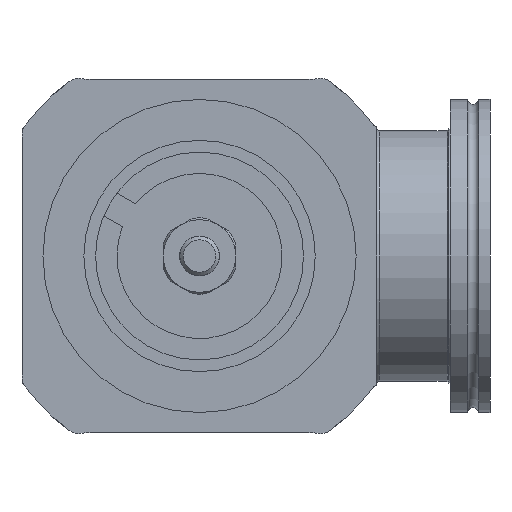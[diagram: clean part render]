
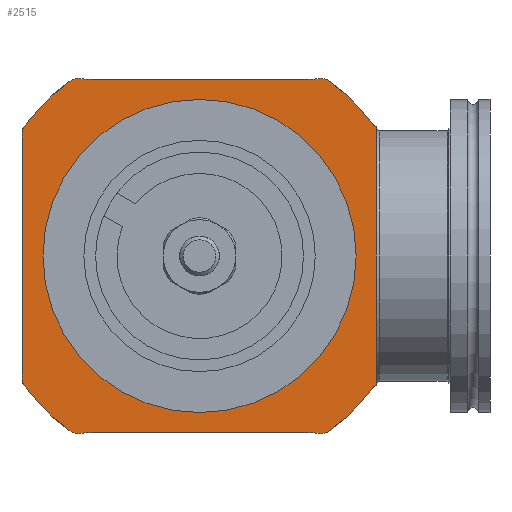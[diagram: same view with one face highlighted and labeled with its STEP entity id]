
A CAD part, left-side view. The second image highlights one B-rep face of the part: STEP entity #2515.
In plain terms, the highlighted planar face has unit normal (-1, 0, 0) as drawn and (0, -1, 0) by its records, which use the part's own axes.
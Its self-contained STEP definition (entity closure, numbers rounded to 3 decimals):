
#1221=FACE_BOUND('',#3794,.T.);
#1222=FACE_BOUND('',#3795,.T.);
#1510=PLANE('',#10330);
#2515=ADVANCED_FACE('',(#1221,#1222),#1510,.T.);
#3794=EDGE_LOOP('',(#6576));
#3795=EDGE_LOOP('',(#6577,#6578,#6579,#6580,#6581,#6582,#6583,#6584,#6585,
#6586,#6587,#6588,#6589,#6590,#6591,#6592,#6593,#6594,#6595,#6596,#6597,
#6598));
#4318=CIRCLE('',#10280,14.);
#4319=CIRCLE('',#10282,14.);
#4320=CIRCLE('',#10284,2.);
#4321=CIRCLE('',#10286,2.);
#4322=CIRCLE('',#10288,14.);
#4323=CIRCLE('',#10290,14.);
#4324=CIRCLE('',#10292,14.);
#4325=CIRCLE('',#10294,14.);
#4326=CIRCLE('',#10296,5.3);
#4327=CIRCLE('',#10299,5.3);
#4328=CIRCLE('',#10301,66.);
#4329=CIRCLE('',#10303,5.3);
#4330=CIRCLE('',#10306,5.3);
#4331=CIRCLE('',#10308,66.);
#4332=CIRCLE('',#10310,66.);
#4333=CIRCLE('',#10312,5.3);
#4334=CIRCLE('',#10315,5.3);
#4335=CIRCLE('',#10317,66.);
#4342=CIRCLE('',#10329,39.);
#6576=ORIENTED_EDGE('',*,*,#8570,.T.);
#6577=ORIENTED_EDGE('',*,*,#8571,.F.);
#6578=ORIENTED_EDGE('',*,*,#8527,.T.);
#6579=ORIENTED_EDGE('',*,*,#8557,.T.);
#6580=ORIENTED_EDGE('',*,*,#8559,.T.);
#6581=ORIENTED_EDGE('',*,*,#8524,.T.);
#6582=ORIENTED_EDGE('',*,*,#8560,.T.);
#6583=ORIENTED_EDGE('',*,*,#8521,.T.);
#6584=ORIENTED_EDGE('',*,*,#8561,.T.);
#6585=ORIENTED_EDGE('',*,*,#8563,.T.);
#6586=ORIENTED_EDGE('',*,*,#8545,.T.);
#6587=ORIENTED_EDGE('',*,*,#8542,.T.);
#6588=ORIENTED_EDGE('',*,*,#8547,.T.);
#6589=ORIENTED_EDGE('',*,*,#8539,.T.);
#6590=ORIENTED_EDGE('',*,*,#8548,.T.);
#6591=ORIENTED_EDGE('',*,*,#8550,.T.);
#6592=ORIENTED_EDGE('',*,*,#8552,.T.);
#6593=ORIENTED_EDGE('',*,*,#8536,.T.);
#6594=ORIENTED_EDGE('',*,*,#8553,.T.);
#6595=ORIENTED_EDGE('',*,*,#8533,.T.);
#6596=ORIENTED_EDGE('',*,*,#8554,.T.);
#6597=ORIENTED_EDGE('',*,*,#8556,.T.);
#6598=ORIENTED_EDGE('',*,*,#8531,.T.);
#7378=VERTEX_POINT('',#16341);
#7379=VERTEX_POINT('',#16342);
#7380=VERTEX_POINT('',#16347);
#7381=VERTEX_POINT('',#16348);
#7382=VERTEX_POINT('',#16353);
#7383=VERTEX_POINT('',#16354);
#7384=VERTEX_POINT('',#16359);
#7385=VERTEX_POINT('',#16361);
#7386=VERTEX_POINT('',#16365);
#7387=VERTEX_POINT('',#16366);
#7388=VERTEX_POINT('',#16371);
#7389=VERTEX_POINT('',#16372);
#7390=VERTEX_POINT('',#16377);
#7391=VERTEX_POINT('',#16378);
#7392=VERTEX_POINT('',#16383);
#7393=VERTEX_POINT('',#16384);
#7394=VERTEX_POINT('',#16389);
#7395=VERTEX_POINT('',#16395);
#7396=VERTEX_POINT('',#16399);
#7397=VERTEX_POINT('',#16407);
#7398=VERTEX_POINT('',#16413);
#7399=VERTEX_POINT('',#16421);
#7406=VERTEX_POINT('',#16443);
#8521=EDGE_CURVE('',#7378,#7379,#4318,.T.);
#8524=EDGE_CURVE('',#7380,#7381,#4319,.T.);
#8527=EDGE_CURVE('',#7382,#7383,#4320,.T.);
#8531=EDGE_CURVE('',#7385,#7384,#4321,.T.);
#8533=EDGE_CURVE('',#7386,#7387,#4322,.T.);
#8536=EDGE_CURVE('',#7388,#7389,#4323,.T.);
#8539=EDGE_CURVE('',#7390,#7391,#4324,.T.);
#8542=EDGE_CURVE('',#7392,#7393,#4325,.T.);
#8545=EDGE_CURVE('',#7394,#7392,#4326,.T.);
#8547=EDGE_CURVE('',#7393,#7390,#8957,.T.);
#8548=EDGE_CURVE('',#7391,#7395,#4327,.T.);
#8550=EDGE_CURVE('',#7395,#7396,#4328,.T.);
#8552=EDGE_CURVE('',#7396,#7388,#4329,.T.);
#8553=EDGE_CURVE('',#7389,#7386,#8960,.T.);
#8554=EDGE_CURVE('',#7387,#7397,#4330,.T.);
#8556=EDGE_CURVE('',#7397,#7385,#4331,.T.);
#8557=EDGE_CURVE('',#7383,#7398,#4332,.T.);
#8559=EDGE_CURVE('',#7398,#7380,#4333,.T.);
#8560=EDGE_CURVE('',#7381,#7378,#8963,.T.);
#8561=EDGE_CURVE('',#7379,#7399,#4334,.T.);
#8563=EDGE_CURVE('',#7399,#7394,#4335,.T.);
#8570=EDGE_CURVE('',#7406,#7406,#4342,.T.);
#8571=EDGE_CURVE('',#7382,#7384,#8965,.T.);
#8957=LINE('',#16392,#9321);
#8960=LINE('',#16404,#9324);
#8963=LINE('',#16418,#9327);
#8965=LINE('',#16444,#9329);
#9321=VECTOR('',#12682,1.);
#9324=VECTOR('',#12699,1.);
#9327=VECTOR('',#12720,1.);
#9329=VECTOR('',#12754,1.);
#10280=AXIS2_PLACEMENT_3D('',#16340,#12629,#12630);
#10282=AXIS2_PLACEMENT_3D('',#16346,#12635,#12636);
#10284=AXIS2_PLACEMENT_3D('',#16352,#12641,#12642);
#10286=AXIS2_PLACEMENT_3D('',#16360,#12648,#12649);
#10288=AXIS2_PLACEMENT_3D('',#16364,#12653,#12654);
#10290=AXIS2_PLACEMENT_3D('',#16370,#12659,#12660);
#10292=AXIS2_PLACEMENT_3D('',#16376,#12665,#12666);
#10294=AXIS2_PLACEMENT_3D('',#16382,#12671,#12672);
#10296=AXIS2_PLACEMENT_3D('',#16388,#12677,#12678);
#10299=AXIS2_PLACEMENT_3D('',#16394,#12685,#12686);
#10301=AXIS2_PLACEMENT_3D('',#16398,#12690,#12691);
#10303=AXIS2_PLACEMENT_3D('',#16402,#12695,#12696);
#10306=AXIS2_PLACEMENT_3D('',#16406,#12702,#12703);
#10308=AXIS2_PLACEMENT_3D('',#16410,#12707,#12708);
#10310=AXIS2_PLACEMENT_3D('',#16412,#12711,#12712);
#10312=AXIS2_PLACEMENT_3D('',#16416,#12716,#12717);
#10315=AXIS2_PLACEMENT_3D('',#16420,#12723,#12724);
#10317=AXIS2_PLACEMENT_3D('',#16424,#12728,#12729);
#10329=AXIS2_PLACEMENT_3D('',#16442,#12752,#12753);
#10330=AXIS2_PLACEMENT_3D('',#16445,#12755,#12756);
#12629=DIRECTION('',(0.,1.,0.));
#12630=DIRECTION('',(0.,0.,-1.));
#12635=DIRECTION('',(0.,1.,0.));
#12636=DIRECTION('',(0.,0.,-1.));
#12641=DIRECTION('',(0.,1.,0.));
#12642=DIRECTION('',(0.,0.,-1.));
#12648=DIRECTION('',(0.,1.,0.));
#12649=DIRECTION('',(0.,0.,-1.));
#12653=DIRECTION('',(0.,1.,0.));
#12654=DIRECTION('',(0.,0.,-1.));
#12659=DIRECTION('',(0.,1.,0.));
#12660=DIRECTION('',(0.,0.,-1.));
#12665=DIRECTION('',(0.,1.,0.));
#12666=DIRECTION('',(0.,0.,-1.));
#12671=DIRECTION('',(0.,1.,0.));
#12672=DIRECTION('',(0.,0.,-1.));
#12677=DIRECTION('',(0.,-1.,0.));
#12678=DIRECTION('',(0.,0.,-1.));
#12682=DIRECTION('',(-1.,0.,0.));
#12685=DIRECTION('',(0.,-1.,0.));
#12686=DIRECTION('',(0.,0.,-1.));
#12690=DIRECTION('',(0.,-1.,0.));
#12691=DIRECTION('',(0.,0.,-1.));
#12695=DIRECTION('',(0.,-1.,0.));
#12696=DIRECTION('',(0.,0.,-1.));
#12699=DIRECTION('',(0.,0.,-1.));
#12702=DIRECTION('',(0.,-1.,0.));
#12703=DIRECTION('',(0.,0.,-1.));
#12707=DIRECTION('',(0.,-1.,0.));
#12708=DIRECTION('',(0.,0.,-1.));
#12711=DIRECTION('',(0.,-1.,0.));
#12712=DIRECTION('',(0.,0.,-1.));
#12716=DIRECTION('',(0.,-1.,0.));
#12717=DIRECTION('',(0.,0.,-1.));
#12720=DIRECTION('',(0.,0.,1.));
#12723=DIRECTION('',(0.,-1.,0.));
#12724=DIRECTION('',(0.,0.,-1.));
#12728=DIRECTION('',(0.,-1.,0.));
#12729=DIRECTION('',(0.,0.,-1.));
#12752=DIRECTION('',(0.,1.,0.));
#12753=DIRECTION('',(0.,0.,-1.));
#12754=DIRECTION('',(-1.,0.,0.));
#12755=DIRECTION('',(0.,-1.,0.));
#12756=DIRECTION('',(0.,0.,-1.));
#16340=CARTESIAN_POINT('',(67.5,40.,33.11));
#16341=CARTESIAN_POINT('',(53.5,40.,33.11));
#16342=CARTESIAN_POINT('',(53.718,40.,35.569));
#16346=CARTESIAN_POINT('',(67.5,40.,-33.11));
#16347=CARTESIAN_POINT('',(53.718,40.,-35.569));
#16348=CARTESIAN_POINT('',(53.5,40.,-33.11));
#16352=CARTESIAN_POINT('',(41.,40.,-54.249));
#16353=CARTESIAN_POINT('',(39.146,40.,-53.5));
#16354=CARTESIAN_POINT('',(39.794,40.,-52.654));
#16359=CARTESIAN_POINT('',(-39.146,40.,-53.5));
#16360=CARTESIAN_POINT('',(-41.,40.,-54.249));
#16361=CARTESIAN_POINT('',(-39.794,40.,-52.654));
#16364=CARTESIAN_POINT('',(-67.5,40.,-33.11));
#16365=CARTESIAN_POINT('',(-53.5,40.,-33.11));
#16366=CARTESIAN_POINT('',(-53.718,40.,-35.569));
#16370=CARTESIAN_POINT('',(-67.5,40.,33.11));
#16371=CARTESIAN_POINT('',(-53.718,40.,35.569));
#16372=CARTESIAN_POINT('',(-53.5,40.,33.11));
#16376=CARTESIAN_POINT('',(-33.11,40.,67.5));
#16377=CARTESIAN_POINT('',(-33.11,40.,53.5));
#16378=CARTESIAN_POINT('',(-35.569,40.,53.718));
#16382=CARTESIAN_POINT('',(33.11,40.,67.5));
#16383=CARTESIAN_POINT('',(35.569,40.,53.718));
#16384=CARTESIAN_POINT('',(33.11,40.,53.5));
#16388=CARTESIAN_POINT('',(36.5,40.,48.5));
#16389=CARTESIAN_POINT('',(39.687,40.,52.735));
#16392=CARTESIAN_POINT('',(0.,40.,53.5));
#16394=CARTESIAN_POINT('',(-36.5,40.,48.5));
#16395=CARTESIAN_POINT('',(-39.687,40.,52.735));
#16398=CARTESIAN_POINT('',(0.,40.,0.));
#16399=CARTESIAN_POINT('',(-52.735,40.,39.687));
#16402=CARTESIAN_POINT('',(-48.5,40.,36.5));
#16404=CARTESIAN_POINT('',(-53.5,40.,-34.742));
#16406=CARTESIAN_POINT('',(-48.5,40.,-36.5));
#16407=CARTESIAN_POINT('',(-52.735,40.,-39.687));
#16410=CARTESIAN_POINT('',(0.,40.,0.));
#16412=CARTESIAN_POINT('',(0.,40.,0.));
#16413=CARTESIAN_POINT('',(52.735,40.,-39.687));
#16416=CARTESIAN_POINT('',(48.5,40.,-36.5));
#16418=CARTESIAN_POINT('',(53.5,40.,34.742));
#16420=CARTESIAN_POINT('',(48.5,40.,36.5));
#16421=CARTESIAN_POINT('',(52.735,40.,39.687));
#16424=CARTESIAN_POINT('',(0.,40.,0.));
#16442=CARTESIAN_POINT('',(0.,40.,0.));
#16443=CARTESIAN_POINT('',(0.,40.,-39.));
#16444=CARTESIAN_POINT('',(0.,40.,-53.5));
#16445=CARTESIAN_POINT('',(0.,40.,120.));
